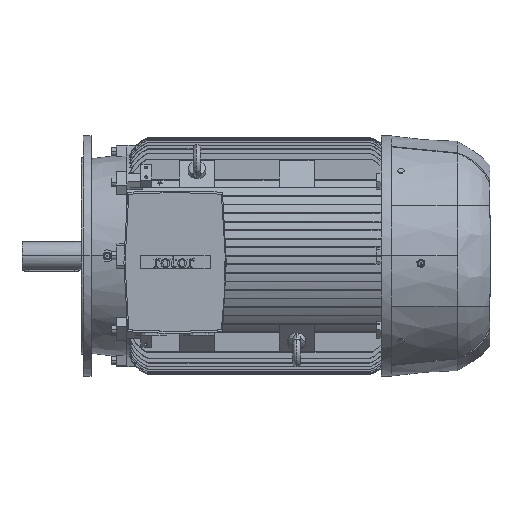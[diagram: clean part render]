
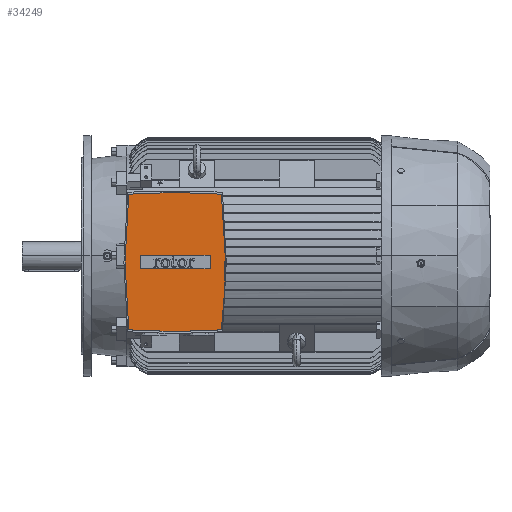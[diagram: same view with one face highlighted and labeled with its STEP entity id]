
A CAD part, top view. The second image highlights one B-rep face of the part: STEP entity #34249.
In plain terms, the highlighted planar face has unit normal (0, 0, 1).
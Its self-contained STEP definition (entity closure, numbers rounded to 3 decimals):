
#2967 = CARTESIAN_POINT ( 'NONE',  ( 145.333, 144.5, 433. ) ) ;
#3100 = CARTESIAN_POINT ( 'NONE',  ( 110., 144.5, 433. ) ) ;
#3201 = VERTEX_POINT ( 'NONE', #9173 ) ;
#3485 = EDGE_CURVE ( 'NONE', #8338, #56199, #38802, .T. ) ;
#3771 = EDGE_CURVE ( 'NONE', #31389, #3201, #66164, .T. ) ;
#5216 = VECTOR ( 'NONE', #17508, 1000. ) ;
#5573 = EDGE_CURVE ( 'NONE', #47926, #18732, #57654, .T. ) ;
#5589 = FACE_BOUND ( 'NONE', #36356, .T. ) ;
#6804 = CARTESIAN_POINT ( 'NONE',  ( 215.904, 140.6, 433. ) ) ;
#7566 = CARTESIAN_POINT ( 'NONE',  ( 190., -14.5, 433. ) ) ;
#7626 = EDGE_CURVE ( 'NONE', #18732, #33806, #24358, .T. ) ;
#8338 = VERTEX_POINT ( 'NONE', #20267 ) ;
#9082 = DIRECTION ( 'NONE',  ( 0., -1., 0. ) ) ;
#9173 = CARTESIAN_POINT ( 'NONE',  ( -4.5, -14.5, 433. ) ) ;
#9743 = CARTESIAN_POINT ( 'NONE',  ( 110., 0.5, 433. ) ) ;
#9906 = DIRECTION ( 'NONE',  ( 1., 0., 0. ) ) ;
#10657 = EDGE_CURVE ( 'NONE', #11658, #47926, #44823, .T. ) ;
#11658 = VERTEX_POINT ( 'NONE', #66254 ) ;
#11779 = VERTEX_POINT ( 'NONE', #59408 ) ;
#13948 = CARTESIAN_POINT ( 'NONE',  ( 190., -29.5, 433. ) ) ;
#14194 = CARTESIAN_POINT ( 'NONE',  ( 215.904, -169.6, 433. ) ) ;
#14264 = CARTESIAN_POINT ( 'NONE',  ( 221.629, -118.112, 433. ) ) ;
#14285 = CARTESIAN_POINT ( 'NONE',  ( 224.5, -66.306, 433. ) ) ;
#14352 = CARTESIAN_POINT ( 'NONE',  ( 215.904, 140.6, 433. ) ) ;
#14441 = CARTESIAN_POINT ( 'NONE',  ( 221.629, 89.112, 433. ) ) ;
#14511 = CARTESIAN_POINT ( 'NONE',  ( 224.5, 37.306, 433. ) ) ;
#15796 = LINE ( 'NONE', #17566, #5216 ) ;
#16171 = DIRECTION ( 'NONE',  ( 1., 0., 0. ) ) ;
#16262 = DIRECTION ( 'NONE',  ( 0., 0., 1. ) ) ;
#16304 = CARTESIAN_POINT ( 'NONE',  ( 110., -14.5, 433. ) ) ;
#16780 = CARTESIAN_POINT ( 'NONE',  ( 74.667, -173.5, 433. ) ) ;
#16881 = CARTESIAN_POINT ( 'NONE',  ( 110., -173.5, 433. ) ) ;
#17349 = CARTESIAN_POINT ( 'NONE',  ( -4.5, -14.5, 433. ) ) ;
#17508 = DIRECTION ( 'NONE',  ( 0., 1., 0. ) ) ;
#17523 = CARTESIAN_POINT ( 'NONE',  ( -4.5, -66.306, 433. ) ) ;
#17566 = CARTESIAN_POINT ( 'NONE',  ( 30., -14.5, 433. ) ) ;
#17862 = EDGE_CURVE ( 'NONE', #3201, #8338, #68526, .T. ) ;
#18732 = VERTEX_POINT ( 'NONE', #13948 ) ;
#19125 = ORIENTED_EDGE ( 'NONE', *, *, #57512, .F. ) ;
#20267 = CARTESIAN_POINT ( 'NONE',  ( 4.096, 140.6, 433. ) ) ;
#20609 = CARTESIAN_POINT ( 'NONE',  ( -1.629, -118.112, 433. ) ) ;
#21425 = PLANE ( 'NONE',  #35545 ) ;
#21437 = ORIENTED_EDGE ( 'NONE', *, *, #17862, .F. ) ;
#22250 = EDGE_CURVE ( 'NONE', #40187, #37009, #34230, .T. ) ;
#24358 = LINE ( 'NONE', #67051, #67728 ) ;
#24464 = EDGE_CURVE ( 'NONE', #33806, #11658, #15796, .T. ) ;
#24988 = CARTESIAN_POINT ( 'NONE',  ( 39.333, -172.199, 433. ) ) ;
#25069 = CARTESIAN_POINT ( 'NONE',  ( 4.096, -169.6, 433. ) ) ;
#25082 = CARTESIAN_POINT ( 'NONE',  ( 4.096, -169.6, 433. ) ) ;
#26320 = CARTESIAN_POINT ( 'NONE',  ( 215.904, -169.6, 433. ) ) ;
#28718 = EDGE_LOOP ( 'NONE', ( #19125, #56004, #21437, #61480, #43773, #31009, #61591 ) ) ;
#29430 = CARTESIAN_POINT ( 'NONE',  ( 4.096, 140.6, 433. ) ) ;
#29511 = CARTESIAN_POINT ( 'NONE',  ( -1.629, 89.112, 433. ) ) ;
#29907 = CARTESIAN_POINT ( 'NONE',  ( -4.5, 37.306, 433. ) ) ;
#31009 = ORIENTED_EDGE ( 'NONE', *, *, #39124, .F. ) ;
#31389 = VERTEX_POINT ( 'NONE', #47178 ) ;
#32131 = CARTESIAN_POINT ( 'NONE',  ( -4.5, -14.5, 433. ) ) ;
#33591 = CARTESIAN_POINT ( 'NONE',  ( 110., 144.5, 433. ) ) ;
#33683 = CARTESIAN_POINT ( 'NONE',  ( 180.667, 143.199, 433. ) ) ;
#33783 = ORIENTED_EDGE ( 'NONE', *, *, #5573, .T. ) ;
#33806 = VERTEX_POINT ( 'NONE', #40798 ) ;
#34230 = B_SPLINE_CURVE_WITH_KNOTS ( 'NONE', 3,
 ( #14352, #14441, #14511, #14285, #14264, #14194 ),
 .UNSPECIFIED., .F., .F.,
 ( 4, 2, 4 ),
 ( 0., 0.5, 1. ),
 .UNSPECIFIED. ) ;
#34249 = ADVANCED_FACE ( 'NONE', ( #38680, #5589 ), #21425, .T. ) ;
#34660 = EDGE_CURVE ( 'NONE', #11779, #31389, #37438, .T. ) ;
#34727 = CARTESIAN_POINT ( 'NONE',  ( 215.904, 140.6, 433. ) ) ;
#35545 = AXIS2_PLACEMENT_3D ( 'NONE', #16304, #16262, #16171 ) ;
#36168 = CARTESIAN_POINT ( 'NONE',  ( 190., 0.5, 433. ) ) ;
#36280 = VECTOR ( 'NONE', #9082, 1000. ) ;
#36356 = EDGE_LOOP ( 'NONE', ( #66092, #33783, #64188, #46260 ) ) ;
#37009 = VERTEX_POINT ( 'NONE', #26320 ) ;
#37438 = B_SPLINE_CURVE_WITH_KNOTS ( 'NONE', 3,
 ( #16881, #16780, #24988, #25069 ),
 .UNSPECIFIED., .F., .F.,
 ( 4, 4 ),
 ( 0., 1. ),
 .UNSPECIFIED. ) ;
#38680 = FACE_OUTER_BOUND ( 'NONE', #28718, .T. ) ;
#38802 = B_SPLINE_CURVE_WITH_KNOTS ( 'NONE', 3,
 ( #42325, #50651, #47876, #33591 ),
 .UNSPECIFIED., .F., .F.,
 ( 4, 4 ),
 ( 0., 1. ),
 .UNSPECIFIED. ) ;
#39124 = EDGE_CURVE ( 'NONE', #37009, #11779, #55291, .T. ) ;
#40187 = VERTEX_POINT ( 'NONE', #34727 ) ;
#40798 = CARTESIAN_POINT ( 'NONE',  ( 30., -29.5, 433. ) ) ;
#42221 = B_SPLINE_CURVE_WITH_KNOTS ( 'NONE', 3,
 ( #3100, #2967, #33683, #6804 ),
 .UNSPECIFIED., .F., .F.,
 ( 4, 4 ),
 ( 0., 1. ),
 .UNSPECIFIED. ) ;
#42325 = CARTESIAN_POINT ( 'NONE',  ( 4.096, 140.6, 433. ) ) ;
#43752 = VECTOR ( 'NONE', #9906, 1000. ) ;
#43773 = ORIENTED_EDGE ( 'NONE', *, *, #34660, .F. ) ;
#44823 = LINE ( 'NONE', #9743, #43752 ) ;
#46260 = ORIENTED_EDGE ( 'NONE', *, *, #24464, .T. ) ;
#47178 = CARTESIAN_POINT ( 'NONE',  ( 4.096, -169.6, 433. ) ) ;
#47876 = CARTESIAN_POINT ( 'NONE',  ( 74.667, 144.5, 433. ) ) ;
#47926 = VERTEX_POINT ( 'NONE', #36168 ) ;
#50651 = CARTESIAN_POINT ( 'NONE',  ( 39.333, 143.199, 433. ) ) ;
#55291 = B_SPLINE_CURVE_WITH_KNOTS ( 'NONE', 3,
 ( #59068, #58923, #58336, #58278 ),
 .UNSPECIFIED., .F., .F.,
 ( 4, 4 ),
 ( 0., 1. ),
 .UNSPECIFIED. ) ;
#56004 = ORIENTED_EDGE ( 'NONE', *, *, #3485, .F. ) ;
#56199 = VERTEX_POINT ( 'NONE', #66080 ) ;
#57512 = EDGE_CURVE ( 'NONE', #56199, #40187, #42221, .T. ) ;
#57654 = LINE ( 'NONE', #7566, #36280 ) ;
#58278 = CARTESIAN_POINT ( 'NONE',  ( 110., -173.5, 433. ) ) ;
#58336 = CARTESIAN_POINT ( 'NONE',  ( 145.333, -173.5, 433. ) ) ;
#58923 = CARTESIAN_POINT ( 'NONE',  ( 180.667, -172.199, 433. ) ) ;
#59068 = CARTESIAN_POINT ( 'NONE',  ( 215.904, -169.6, 433. ) ) ;
#59408 = CARTESIAN_POINT ( 'NONE',  ( 110., -173.5, 433. ) ) ;
#61480 = ORIENTED_EDGE ( 'NONE', *, *, #3771, .F. ) ;
#61591 = ORIENTED_EDGE ( 'NONE', *, *, #22250, .F. ) ;
#64188 = ORIENTED_EDGE ( 'NONE', *, *, #7626, .T. ) ;
#66080 = CARTESIAN_POINT ( 'NONE',  ( 110., 144.5, 433. ) ) ;
#66092 = ORIENTED_EDGE ( 'NONE', *, *, #10657, .T. ) ;
#66164 = B_SPLINE_CURVE_WITH_KNOTS ( 'NONE', 3,
 ( #25082, #20609, #17523, #17349 ),
 .UNSPECIFIED., .F., .F.,
 ( 4, 4 ),
 ( 0., 0.5 ),
 .UNSPECIFIED. ) ;
#66254 = CARTESIAN_POINT ( 'NONE',  ( 30., 0.5, 433. ) ) ;
#67051 = CARTESIAN_POINT ( 'NONE',  ( 110., -29.5, 433. ) ) ;
#67134 = DIRECTION ( 'NONE',  ( -1., 0., 0. ) ) ;
#67728 = VECTOR ( 'NONE', #67134, 1000. ) ;
#68526 = B_SPLINE_CURVE_WITH_KNOTS ( 'NONE', 3,
 ( #32131, #29907, #29511, #29430 ),
 .UNSPECIFIED., .F., .F.,
 ( 4, 4 ),
 ( 0.5, 1. ),
 .UNSPECIFIED. ) ;
